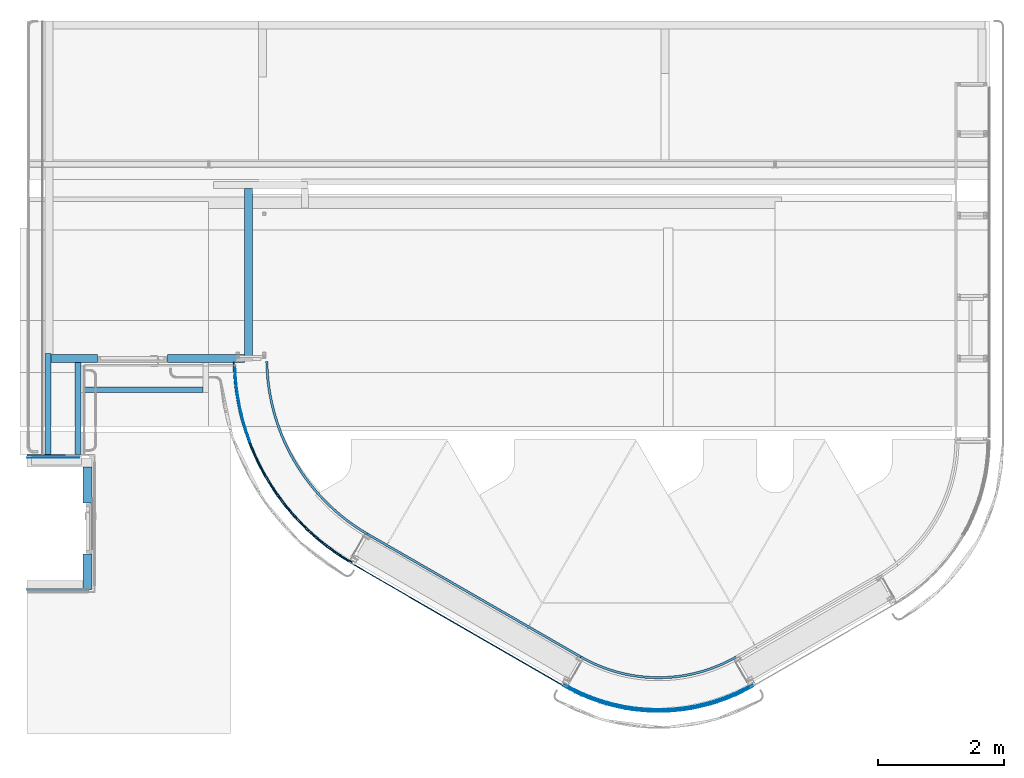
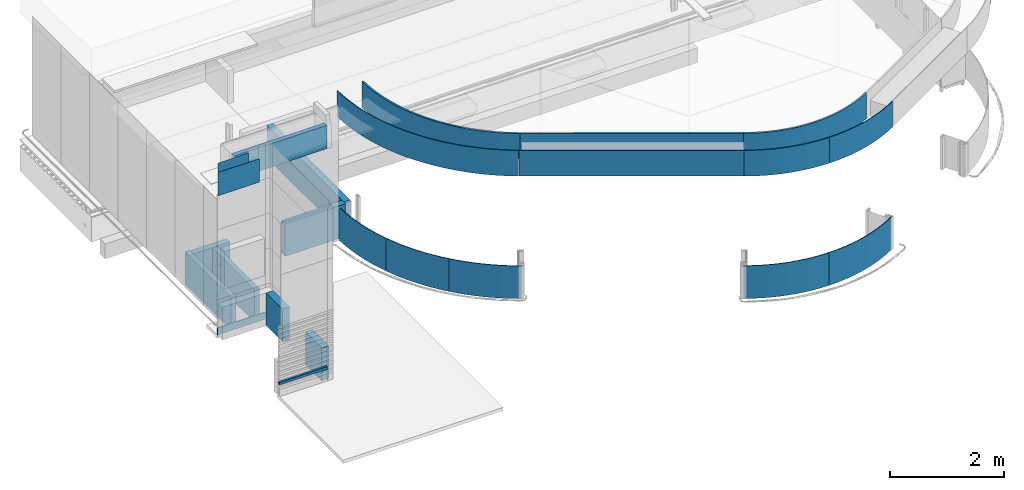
# One storey, part 10 of 18: 18 walls, 4 plates, 2 openings, 2 elements without a shape of their own.
"""IFC2X3 building model written with IfcOpenShell, lengths in millimetres."""

import ifcopenshell
import ifcopenshell.guid

model = None  # the IFC model being written
_history = None  # IfcOwnerHistory: only IFC2X3 demands one
_inside = {}  # id of a spatial element -> (the spatial element, [elements in it])
_under = {}  # id of a project, library or spatial element -> (it, [spatial elements below it])
_declared = {}  # id of a project -> (the project, [libraries it declares])
_typed = {}  # id of a type object -> (the type object, [elements of that type])
_made_of = {}  # id of a material, layer set ... -> (it, [elements and type objects made of it])


def new_model(schema):
    """Start an empty IFC model of exactly this schema.

    Asked for "IFC4X3", IfcOpenShell would pick the latest addendum, in which some entities
    have other attributes; the version numbers below select the first issue.
    IFC2X3 requires an IfcOwnerHistory on every rooted entity: one is made here for all.
    """
    global model, _history
    if schema == "IFC4X3":
        model = ifcopenshell.file(schema_version=(4, 3, 0, 0))
    else:
        model = ifcopenshell.file(schema=schema)
    _inside.clear()
    _under.clear()
    _declared.clear()
    _typed.clear()
    _made_of.clear()
    _history = None
    if model.schema == "IFC2X3":
        org = make("IfcOrganization", Name="unknown")
        user = make(
            "IfcPersonAndOrganization",
            ThePerson=make("IfcPerson", FamilyName="unknown"),
            TheOrganization=org,
        )
        app = make(
            "IfcApplication",
            ApplicationDeveloper=org,
            Version="unknown",
            ApplicationFullName="unknown",
            ApplicationIdentifier="unknown",
        )
        _history = make(
            "IfcOwnerHistory",
            OwningUser=user,
            OwningApplication=app,
            ChangeAction="ADDED",
            CreationDate=0,
        )
    return model


def make(cls, **values):
    """One entity of the class cls with the attributes given. An attribute that is None is left unset."""
    return model.create_entity(
        cls, **{name: value for name, value in values.items() if value is not None}
    )


def entity(cls, *values):
    """Any entity or typed value of the class cls, its attributes in the order of the schema. None: left unset."""
    e = model.create_entity(cls)
    for i, value in enumerate(values):
        if value is not None:
            e[i] = value
    return e


def rooted(cls, **values):
    """An entity with a GlobalId (a new one), such as an element, a storey or a relation."""
    return make(cls, GlobalId=ifcopenshell.guid.new(), OwnerHistory=_history, **values)


def si_unit(unit_type, name, prefix=None):
    """IfcSIUnit, for example si_unit("LENGTHUNIT", "METRE", prefix="MILLI")."""
    return make("IfcSIUnit", UnitType=unit_type, Prefix=prefix, Name=name)


def converted_unit(unit_type, name, factor, base, dimensions=None, offset=None):
    """IfcConversionBasedUnit, such as the inch: factor (a typed value) times the base unit."""
    return make(
        "IfcConversionBasedUnit"
        if offset is None
        else "IfcConversionBasedUnitWithOffset",
        ConversionOffset=offset,
        Dimensions=None
        if dimensions is None
        else entity("IfcDimensionalExponents", *dimensions),
        UnitType=unit_type,
        Name=name,
        ConversionFactor=make(
            "IfcMeasureWithUnit", ValueComponent=factor, UnitComponent=base
        ),
    )


def derived_unit(unit_type, elements):
    """IfcDerivedUnit: a product of units, each with its exponent."""
    return make(
        "IfcDerivedUnit",
        Elements=[
            make("IfcDerivedUnitElement", Unit=unit, Exponent=power)
            for unit, power in elements
        ],
        UnitType=unit_type,
    )


def assignment(units):
    """IfcUnitAssignment: the units of a project."""
    return None if units is None else make("IfcUnitAssignment", Units=units)


def point(xyz):
    """IfcCartesianPoint."""
    return None if xyz is None else make("IfcCartesianPoint", Coordinates=xyz)


def direction(xyz):
    """IfcDirection."""
    return None if xyz is None else make("IfcDirection", DirectionRatios=xyz)


def frame(location, z_axis=None, x_axis=None):
    """IfcAxis2Placement3D, a coordinate frame: its origin and axes. An axis left out is left unset."""
    return make(
        "IfcAxis2Placement3D",
        Location=point(location),
        Axis=direction(z_axis),
        RefDirection=direction(x_axis),
    )


def frame_2d(location, x_axis=None):
    """IfcAxis2Placement2D, a coordinate frame in the plane: its origin and x axis."""
    return make(
        "IfcAxis2Placement2D", Location=point(location), RefDirection=direction(x_axis)
    )


def origin():
    """The frame at (0, 0, 0) with its axes left unset."""
    return frame((0.0, 0.0, 0.0))


def origin_with_axes():
    """The frame at (0, 0, 0) with the z axis (0, 0, 1) and the x axis (1, 0, 0) written out."""
    return frame((0.0, 0.0, 0.0), z_axis=(0.0, 0.0, 1.0), x_axis=(1.0, 0.0, 0.0))


def place(relative_to, where):
    """IfcLocalPlacement: puts the frame where relative to a parent placement (None: the world)."""
    return make(
        "IfcLocalPlacement", PlacementRelTo=relative_to, RelativePlacement=where
    )


def context(
    kind, dimensions, precision=None, world=None, true_north=None, identifier=None
):
    """IfcGeometricRepresentationContext, for example the 3D "Model" context."""
    return make(
        "IfcGeometricRepresentationContext",
        ContextIdentifier=identifier,
        ContextType=kind,
        CoordinateSpaceDimension=dimensions,
        Precision=precision,
        WorldCoordinateSystem=world,
        TrueNorth=true_north,
    )


def subcontext(parent, identifier, kind, view, scale=None):
    """IfcGeometricRepresentationSubContext, for example "Body" below "Model"."""
    return make(
        "IfcGeometricRepresentationSubContext",
        ContextIdentifier=identifier,
        ContextType=kind,
        ParentContext=parent,
        TargetScale=scale,
        TargetView=view,
    )


def project(units=None, contexts=None):
    """IfcProject with its units and contexts."""
    return rooted(
        "IfcProject",
        Name="project",
        RepresentationContexts=contexts,
        UnitsInContext=assignment(units),
    )


def spatial(cls, under=None, at=None, **own):
    """A site, building, storey or space (cls), placed at a placement, below another one or the project."""
    s = rooted(cls, ObjectPlacement=at, **own)
    if under is not None:
        _under.setdefault(under.id(), (under, []))[1].append(s)
    return s


def polyline(points):
    """IfcPolyline through the points."""
    return make("IfcPolyline", Points=[point(p) for p in points])


def circle_curve(where, radius):
    """IfcCircle in the frame where."""
    return make("IfcCircle", Position=where, Radius=radius)


def parameter(value):
    """IfcParameterValue: where a trimmed curve begins or ends, as a parameter of its basis curve."""
    return model.create_entity("IfcParameterValue", value)


def trimmed(basis, trim1, trim2, sense, master):
    """IfcTrimmedCurve: the piece of a basis curve between two trims."""
    return make(
        "IfcTrimmedCurve",
        BasisCurve=basis,
        Trim1=trim1,
        Trim2=trim2,
        SenseAgreement=sense,
        MasterRepresentation=master,
    )


def segment(curve, same_sense, transition):
    """IfcCompositeCurveSegment."""
    return make(
        "IfcCompositeCurveSegment",
        Transition=transition,
        SameSense=same_sense,
        ParentCurve=curve,
    )


def composite_curve(segments, self_intersect=None):
    """IfcCompositeCurve: segments joined end to end."""
    return make("IfcCompositeCurve", Segments=segments, SelfIntersect=self_intersect)


def profile(cls, at=None, kind="AREA", **sizes):
    """A parametric profile (cls). Its sizes go by their IFC names, for example OverallWidth=200.0."""
    return make(cls, ProfileType=kind, Position=at, **sizes)


def rectangle(**sizes):
    """IfcRectangleProfileDef."""
    return profile("IfcRectangleProfileDef", **sizes)


def outline(outer, holes=None, kind="AREA"):
    """IfcArbitraryClosedProfileDef: a profile drawn as a closed curve; with holes, ...WithVoids."""
    if holes is None:
        return make("IfcArbitraryClosedProfileDef", ProfileType=kind, OuterCurve=outer)
    return make(
        "IfcArbitraryProfileDefWithVoids",
        ProfileType=kind,
        OuterCurve=outer,
        InnerCurves=holes,
    )


def extrude(swept, where, along, depth):
    """IfcExtrudedAreaSolid: the profile swept, set in the frame where, extruded along a direction by depth."""
    return make(
        "IfcExtrudedAreaSolid",
        SweptArea=swept,
        Position=where,
        ExtrudedDirection=direction(along),
        Depth=depth,
    )


def clip(a, b, op="DIFFERENCE"):
    """IfcBooleanClippingResult: the solid a cut by the half space b."""
    return make(
        "IfcBooleanClippingResult", Operator=op, FirstOperand=a, SecondOperand=b
    )


def halfspace(plane, agree):
    """IfcHalfSpaceSolid: all space on one side of the plane z = 0 of the frame plane."""
    return make(
        "IfcHalfSpaceSolid",
        BaseSurface=make("IfcPlane", Position=plane),
        AgreementFlag=agree,
    )


def bounded_halfspace(plane, agree, where, boundary):
    """IfcPolygonalBoundedHalfSpace: a half space limited to a polygon's prism."""
    return make(
        "IfcPolygonalBoundedHalfSpace",
        BaseSurface=make("IfcPlane", Position=plane),
        AgreementFlag=agree,
        Position=where,
        PolygonalBoundary=boundary,
    )


def faces_of(points, faces, orient=None, outer=None):
    """IfcFace entities. A face is a list of loops; a loop is a list of indices into points, from 0.

    orient and outer hold one flag for each loop. By default every Orientation is true, the
    first loop of a face is its IfcFaceOuterBound and the others are IfcFaceBound.
    """
    made = []
    for i, loops in enumerate(faces):
        bounds = []
        for j, loop in enumerate(loops):
            is_outer = j == 0 if outer is None else outer[i][j]
            bounds.append(
                make(
                    "IfcFaceOuterBound" if is_outer else "IfcFaceBound",
                    Bound=make("IfcPolyLoop", Polygon=[points[k] for k in loop]),
                    Orientation=True if orient is None else orient[i][j],
                )
            )
        made.append(make("IfcFace", Bounds=bounds))
    return made


def faceted_brep(points, faces, orient=None, outer=None, voids=None):
    """IfcFacetedBrep: a solid bounded by flat faces; with voids (closed shells), ...WithVoids."""
    shared = [point(p) for p in points]
    hull = make("IfcClosedShell", CfsFaces=faces_of(shared, faces, orient, outer))
    if voids is None:
        return make("IfcFacetedBrep", Outer=hull)
    return make(
        "IfcFacetedBrepWithVoids",
        Outer=hull,
        Voids=[
            make(cls, CfsFaces=faces_of(shared, fs, o, b)) for cls, fs, o, b in voids
        ],
    )


def shape(context_of_items, identifier, shape_type, items):
    """IfcShapeRepresentation: the items that make up one representation, for example the "Body"."""
    return make(
        "IfcShapeRepresentation",
        ContextOfItems=context_of_items,
        RepresentationIdentifier=identifier,
        RepresentationType=shape_type,
        Items=items,
    )


def material(Name=None, Category=None):
    """IfcMaterial."""
    return make("IfcMaterial", Name=Name, Category=Category)


def layer(
    of_material, thickness, ventilated=None, Name=None, Category=None, Priority=None
):
    """IfcMaterialLayer: one layer of a wall or slab, of a material (None: an air gap)."""
    return make(
        "IfcMaterialLayer",
        Material=of_material,
        LayerThickness=thickness,
        IsVentilated=ventilated,
        Name=Name,
        Category=Category,
        Priority=Priority,
    )


def layer_set(layers, Name=None):
    """IfcMaterialLayerSet."""
    return make("IfcMaterialLayerSet", MaterialLayers=layers, LayerSetName=Name)


def layer_usage(for_layer_set, set_direction, sense, offset, extent=None):
    """IfcMaterialLayerSetUsage: how a layer set lies in its element."""
    return make(
        "IfcMaterialLayerSetUsage",
        ForLayerSet=for_layer_set,
        LayerSetDirection=set_direction,
        DirectionSense=sense,
        OffsetFromReferenceLine=offset,
        ReferenceExtent=extent,
    )


def made_of(thing, what):
    """Note that an element or type object is made of a material, layer set ...; save() writes the relation."""
    if what is not None:
        _made_of.setdefault(what.id(), (what, []))[1].append(thing)
    return thing


def type_object(cls, material=None, **own):
    """A type object (cls), such as IfcWallType, which elements share."""
    return made_of(rooted(cls, **own), material)


def element(
    cls,
    number,
    at=None,
    inside=None,
    cuts=None,
    type_object=None,
    material=None,
    context=None,
    identifier="Body",
    shape_type=None,
    held_by="IfcProductDefinitionShape",
    body=None,
    shapes=None,
    **own,
):
    """One element of the class cls, such as IfcWall. Its Tag is "e" and its number.

    at: its placement. inside: the storey or other place that contains it. cuts: it is an
    opening in that element (IfcRelVoidsElement). A single representation is given by context,
    identifier, shape_type and body (its items); several are given by shapes. held_by: the class
    of the entity that holds the representations. save() writes the other relations.
    """
    e = rooted(cls, Tag="e%d" % number, ObjectPlacement=at, **own)
    if body is not None:
        shapes = [shape(context, identifier, shape_type, body)]
    if shapes is not None:
        e.Representation = make(held_by, Representations=shapes)
    if inside is not None:
        _inside.setdefault(inside.id(), (inside, []))[1].append(e)
    if cuts is not None:
        rooted(
            "IfcRelVoidsElement", RelatingBuildingElement=cuts, RelatedOpeningElement=e
        )
    if type_object is not None:
        _typed.setdefault(type_object.id(), (type_object, []))[1].append(e)
    return made_of(e, material)


def aggregate(whole, parts):
    """IfcRelAggregates: a whole, such as a stair, and the parts it consists of."""
    return rooted("IfcRelAggregates", RelatingObject=whole, RelatedObjects=parts)


def save(model, path):
    """Write the relations noted so far, then the file.

    IfcRelAggregates (storeys below a building ...), IfcRelContainedInSpatialStructure (elements
    in a storey), IfcRelDefinesByType, IfcRelAssociatesMaterial and IfcRelDeclares: one each for
    every whole, place, type object, material and project.
    """
    for whole, parts in _under.values():
        aggregate(whole, parts)
    for where, things in _inside.values():
        rooted(
            "IfcRelContainedInSpatialStructure",
            RelatedElements=things,
            RelatingStructure=where,
        )
    for kind, things in _typed.values():
        rooted("IfcRelDefinesByType", RelatedObjects=things, RelatingType=kind)
    for what, things in _made_of.values():
        rooted("IfcRelAssociatesMaterial", RelatedObjects=things, RelatingMaterial=what)
    for by, libraries in _declared.values():
        rooted("IfcRelDeclares", RelatingContext=by, RelatedDefinitions=libraries)
    model.write(path)


model = new_model("IFC2X3")

# Units and contexts
model_context = context("Model", 3, precision=0.01, world=frame((0.0, 4.29681676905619e-09, 0.0)), true_north=direction((4.01073788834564e-13, 1.0)))
plan_context = context("Plan", 3, precision=0.01, world=frame((0.0, 4.29681676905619e-09, 0.0)), true_north=direction((4.01073788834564e-13, 1.0)))
body_context = subcontext(model_context, "Body", "Model", "MODEL_VIEW")
ifc_project = project(units=[converted_unit("PLANEANGLEUNIT", "DEGREE", entity("IfcPositiveLengthMeasure", 0.0174532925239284), si_unit("PLANEANGLEUNIT", "RADIAN"), dimensions=[0, 0, 0, 0, 0, 0, 0]), si_unit("AREAUNIT", "SQUARE_METRE"), si_unit("LENGTHUNIT", "METRE", prefix="MILLI"), si_unit("MASSUNIT", "GRAM", prefix="KILO"), si_unit("POWERUNIT", "WATT"), si_unit("PRESSUREUNIT", "PASCAL"), si_unit("FORCEUNIT", "NEWTON", prefix="KILO"), si_unit("ELECTRICVOLTAGEUNIT", "VOLT"), si_unit("ELECTRICCURRENTUNIT", "AMPERE"), si_unit("THERMODYNAMICTEMPERATUREUNIT", "DEGREE_CELSIUS"), si_unit("TIMEUNIT", "SECOND"), si_unit("VOLUMEUNIT", "CUBIC_METRE"), derived_unit("LINEARVELOCITYUNIT", [(si_unit("LENGTHUNIT", "METRE"), 1), (si_unit("TIMEUNIT", "SECOND"), -1)]), derived_unit("VOLUMETRICFLOWRATEUNIT", [(si_unit("VOLUMEUNIT", "CUBIC_METRE"), 1), (si_unit("TIMEUNIT", "SECOND"), -1)]), derived_unit("THERMALTRANSMITTANCEUNIT", [(si_unit("POWERUNIT", "WATT"), 1), (si_unit("THERMODYNAMICTEMPERATUREUNIT", "KELVIN"), -1), (si_unit("AREAUNIT", "SQUARE_METRE"), -1)]), derived_unit("SOUNDPRESSUREUNIT", [(si_unit("PRESSUREUNIT", "PASCAL"), 1)])], contexts=[model_context, plan_context])

# Site, building, storey
site_placement = place(None, origin_with_axes())
site = spatial("IfcSite", under=ifc_project, at=site_placement, Name="ENGM", CompositionType="ELEMENT")
building_placement = place(site_placement, origin_with_axes())
building = spatial("IfcBuilding", under=site, at=building_placement, Name="TH", CompositionType="ELEMENT")
storey_placement = place(building_placement, frame((0.0, 0.0, 210200.0), z_axis=(0.0, 0.0, 1.0), x_axis=(1.0, 0.0, 0.0)))
storey = spatial("IfcBuildingStorey", under=building, at=storey_placement, Name="Nivå F - 0,7 m", CompositionType="ELEMENT", Elevation=210200.0)

# Curtain wall, plates
curtain_wall_type = type_object("IfcCurtainWallType", PredefinedType="NOTDEFINED")
curtain_wall_1_placement = place(storey_placement, frame((0.0, 0.0, -210200.0), z_axis=(0.0, 0.0, 1.0), x_axis=(1.0, 0.0, 0.0)))
curtain_wall_1 = element("IfcCurtainWall", 1, at=curtain_wall_1_placement, inside=storey, type_object=curtain_wall_type)
ifc_material_1 = material(Name="Metal - Steel")
plate_type_1 = type_object("IfcPlateType", Name="System Panel:A245 - Metallkasett Inv.20mm - Offset 30mm", PredefinedType="CURTAIN_PANEL", material=ifc_material_1)
plate_1_placement = place(curtain_wall_1_placement, frame((893499.999999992, 480415.000000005, 210200.0), z_axis=(0.0, 0.0, 1.0), x_axis=(1.0, 0.0, 0.0)))
plate_1 = element("IfcPlate", 2, at=plate_1_placement, type_object=plate_type_1, Name="System Panel:A245 - Metallkasett Inv.20mm - Offset 30mm", ObjectType="System Panel:A245 - Metallkasett Inv.20mm - Offset 30mm", context=body_context, shape_type="Brep", body=[
    faceted_brep([(1611.90616857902, 50.0, -2.70006239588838e-13), (1611.90616857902, 30.0, -2.70006239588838e-13), (2585.00000001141, 30.0, -2.70006239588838e-13), (2585.00000001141, 50.0, -2.70006239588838e-13), (1611.90616857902, 30.0, 150.0), (1611.90616857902, 50.0, 150.0), (2585.00000001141, 50.0, 150.0), (2585.00000001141, 30.0, 150.0)], [[[0, 1, 2, 3]], [[4, 5, 6, 7]], [[7, 6, 3, 2]], [[1, 4, 7, 2]], [[5, 0, 3, 6]], [[5, 4, 1, 0]]], orient=[[False], [False], [False], [False], [False], [False]]),
])
ifc_material_2 = material(Name="_NSW Luftspalte")
plate_type_2 = type_object("IfcPlateType", Name="Empty System Panel:A234 - Empty System Panel", PredefinedType="CURTAIN_PANEL", material=ifc_material_2)
plate_2_placement = place(curtain_wall_1_placement, frame((893499.99999998, 480415.000000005, 213200.0), z_axis=(0.0, 0.0, 1.0), x_axis=(1.0, 0.0, 0.0)))
plate_2 = element("IfcPlate", 3, at=plate_2_placement, type_object=plate_type_2, Name="Empty System Panel:A234 - Empty System Panel", ObjectType="Empty System Panel:A234 - Empty System Panel", context=body_context, shape_type="Brep", body=[
    faceted_brep([(1611.9061685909, 0.5, 0.0), (1611.9061685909, -0.5, 0.0), (2445.00000000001, -0.5, 0.0), (2445.00000000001, 0.5, 0.0), (1611.9061685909, -0.5, 500.000000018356), (1611.9061685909, 0.5, 500.000000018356), (2445.00000000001, 0.5, 500.000000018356), (2445.00000000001, -0.5, 500.000000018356)], [[[0, 1, 2, 3]], [[4, 5, 6, 7]], [[7, 6, 3, 2]], [[1, 4, 7, 2]], [[5, 0, 3, 6]], [[5, 4, 1, 0]]], orient=[[False], [False], [False], [False], [False], [False]]),
])
plate_type_3 = type_object("IfcPlateType", Name="Empty System Panel:A234 - Empty System Panel", PredefinedType="CURTAIN_PANEL", material=ifc_material_2)
plate_3_placement = place(curtain_wall_1_placement, frame((895321.999999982, 480415.000000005, 213700.000000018), z_axis=(0.0, 0.0, 1.0), x_axis=(1.0, 0.0, 0.0)))
plate_3 = element("IfcPlate", 4, at=plate_3_placement, type_object=plate_type_3, Name="Empty System Panel:A234 - Empty System Panel", ObjectType="Empty System Panel:A234 - Empty System Panel", context=body_context, shape_type="Brep", body=[
    faceted_brep([(-210.093831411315, -0.5, 0.0), (-210.093831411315, -0.499999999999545, 199.999999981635), (404.999999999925, -0.5, 199.999999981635), (404.999999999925, -0.5, 0.0), (404.999999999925, 0.5, 199.999999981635), (404.999999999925, 0.5, 0.0), (-210.093831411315, 0.5, 0.0)], [[[0, 1, 2, 3]], [[2, 4, 5, 3]], [[4, 1, 6, 5]], [[6, 0, 3, 5]], [[1, 0, 6]], [[1, 4, 2]]], orient=[[False], [False], [False], [False], [False], [False]]),
])
aggregate(curtain_wall_1, [plate_2, plate_3, plate_1])

# Curtain wall, plate
curtain_wall_2_placement = place(storey_placement, frame((0.0, 0.0, -210200.0), z_axis=(0.0, 0.0, 1.0), x_axis=(1.0, 0.0, 0.0)))
curtain_wall_2 = element("IfcCurtainWall", 5, at=curtain_wall_2_placement, inside=storey, type_object=curtain_wall_type)
ifc_material_3 = material(Name="T2_Tre Finerplate")
plate_type_4 = type_object("IfcPlateType", Name="System Panel:A245 - Trepanel eksisterende 2", PredefinedType="CURTAIN_PANEL", material=ifc_material_3)
plate_4_placement = place(curtain_wall_2_placement, frame((893499.999999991, 478322.727283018, 210450.0), z_axis=(0.0, 0.0, 1.0), x_axis=(-1.0, 0.0, 0.0)))
plate_4 = element("IfcPlate", 6, at=plate_4_placement, type_object=plate_type_4, Name="System Panel:A245 - Trepanel eksisterende 2", ObjectType="System Panel:A245 - Trepanel eksisterende 2", context=body_context, shape_type="Brep", body=[
    faceted_brep([(-1611.90616857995, 10.0, 0.0), (-1611.90616857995, 50.0, 0.0), (-2585.00000001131, 50.0, 0.0), (-2585.00000001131, 10.0, 0.0), (-2585.00000001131, 50.0, 55.0000000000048), (-2585.00000001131, 10.0, 55.0000000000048), (-1611.90616857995, 50.0, 55.0000000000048), (-1611.90616857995, 10.0, 55.0000000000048)], [[[0, 1, 2, 3]], [[3, 2, 4, 5]], [[6, 7, 5, 4]], [[7, 0, 3, 5]], [[1, 6, 4, 2]], [[7, 6, 1, 0]]], orient=[[False], [False], [False], [False], [False], [False]]),
])
aggregate(curtain_wall_2, [plate_4])

# Wall, opening
ifc_material_4 = material(Name="T2_Gips Protect F")
ifc_layer_1 = layer(ifc_material_4, 15.0)
ifc_material_5 = material(Name="T2_Gips Standard")
ifc_layer_2 = layer(ifc_material_5, 12.5)
ifc_material_6 = material(Name="_NSW Stålstender, uisolert")
ifc_layer_3 = layer(ifc_material_6, 100.0)
ifc_layer_4 = layer(ifc_material_4, 15.0)
ifc_layer_set_1 = layer_set([ifc_layer_1, ifc_layer_2, ifc_layer_3, ifc_layer_4], Name="Basic Wall:A241 - FSVF-100 (100/100 ps-p)")
ifc_layer_usage_1 = layer_usage(ifc_layer_set_1, "AXIS2", "NEGATIVE", 71.25)
wall_type_1 = type_object("IfcWallType", Name="Basic Wall:A241 - FSVF-100 (100/100 ps-p)", PredefinedType="STANDARD", material=ifc_layer_set_1)
wall_1_placement = place(storey_placement, frame((896071.249999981, 480271.249999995, 0.0), z_axis=(0.0, 0.0, 1.0), x_axis=(0.0, -1.0, 0.0)))
wall_1 = element("IfcWallStandardCase", 7, at=wall_1_placement, inside=storey, type_object=wall_type_1, material=ifc_layer_usage_1, Name="Basic Wall:A241 - FSVF-100 (100/100 ps-p)", ObjectType="Basic Wall:A241 - FSVF-100 (100/100 ps-p)", context=body_context, shape_type="Clipping", body=[
    clip(extrude(rectangle(XDim=1944.99999999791, YDim=142.500000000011, at=frame_2d((972.499999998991, -2.03712602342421e-11), x_axis=(1.0, 0.0))), origin(), (0.0, 0.0, 1.0), 700.000000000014), halfspace(origin(), True)),
])
opening_1_placement = place(wall_1_placement, frame((573.737499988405, -71.2500000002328, 0.0), z_axis=(0.0, 0.0, 1.0), x_axis=(1.0, 0.0, 0.0)))
element("IfcOpeningElement", 8, at=opening_1_placement, cuts=wall_1, Name="A20 - Slagdør - Enkel:A243 - DI_LTO - 0790 x 2240 mm:1", ObjectType="Opening", context=body_context, shape_type="SweptSolid", body=[
    extrude(rectangle(XDim=2259.99999999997, YDim=810.0, at=frame_2d((1129.99999999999, 405.0), x_axis=(1.0, 0.0))), frame((0.0, 0.0, 0.0), z_axis=(0.0, 1.0, 0.0), x_axis=(0.0, 0.0, 1.0)), (0.0, 0.0, 1.0), 142.5),
])

# Walls
ifc_material_7 = material(Name="Glass(Avinor)")
ifc_layer_5 = layer(ifc_material_7, 14.0)
ifc_layer_set_2 = layer_set([ifc_layer_5], Name="Basic Wall:A242 - IGV Glass 14mm")
ifc_layer_usage_2 = layer_usage(ifc_layer_set_2, "AXIS2", "POSITIVE", -7.0)
wall_type_2 = type_object("IfcWallType", Name="Basic Wall:A242 - IGV Glass 14mm", PredefinedType="STANDARD", material=ifc_layer_set_2)
wall_2_placement = place(storey_placement, frame((898656.201468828, 480668.98362984, 0.0), z_axis=(0.0, 0.0, 1.0), x_axis=(0.999801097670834, 0.0199440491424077, 0.0)))
element("IfcWallStandardCase", 9, at=wall_2_placement, inside=storey, type_object=wall_type_2, material=ifc_layer_usage_2, Name="Basic Wall:A242 - IGV Glass 14mm", ObjectType="Basic Wall:A242 - IGV Glass 14mm", context=body_context, shape_type="Clipping", body=[
    clip(clip(extrude(outline(composite_curve([segment(trimmed(circle_curve(frame_2d((3519.43879128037, 1250.51013366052), x_axis=(1.0, 0.0)), 3741.99999999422), [parameter(180.584579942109)], [parameter(199.560899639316)], True, "PARAMETER"), True, "CONTINUOUS"), segment(polyline([(-6.59600308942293, -2.34366022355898), (6.59600308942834, 2.3436602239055)]), True, "CONTINUOUS"), segment(trimmed(circle_curve(frame_2d((3519.43879128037, 1250.51013366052), x_axis=(1.0, 0.0)), 3727.99999999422), [parameter(180.584579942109)], [parameter(199.560899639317)], True, "PARAMETER"), False, "CONTINUOUS"), segment(polyline([(-208.367171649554, 1212.47458841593), (-222.366442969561, 1212.33175106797)]), True, "CONTINUOUS")], self_intersect=False)), origin(), (0.0, 0.0, 1.0), 700.000000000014), bounded_halfspace(frame((6.59600308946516, 2.3436602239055, 2630.0), z_axis=(-0.334808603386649, 0.942286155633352, 0.0), x_axis=(0.0, 0.0, -1.0)), True, frame((6.59600308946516, 2.3436602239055, 2630.0), z_axis=(-0.334808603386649, 0.942286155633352, 0.0), x_axis=(0.0, 0.0, -1.0)), polyline([(0.0, 0.0), (2630.0, 0.0), (2630.0, 14.0), (0.0, 14.0), (0.0, 0.0)]))), halfspace(origin(), True)),
])
ifc_layer_usage_3 = layer_usage(ifc_layer_set_2, "AXIS2", "POSITIVE", -7.0)
wall_3_placement = place(storey_placement, frame((899298.353254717, 479577.31421084, 0.0), z_axis=(0.0, 0.0, 1.0), x_axis=(0.999922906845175, 0.0124169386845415, 0.0)))
element("IfcWallStandardCase", 10, at=wall_3_placement, inside=storey, type_object=wall_type_2, material=ifc_layer_usage_3, Name="Basic Wall:A242 - IGV Glass 14mm", ObjectType="Basic Wall:A242 - IGV Glass 14mm", context=body_context, shape_type="Clipping", body=[
    clip(extrude(outline(composite_curve([segment(trimmed(circle_curve(frame_2d((2881.37808227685, 2376.52800255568), x_axis=(1.0, 0.0)), 3741.99999999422), [parameter(199.992228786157)], [parameter(219.515425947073)], True, "PARAMETER"), True, "CONTINUOUS"), segment(polyline([(-5.40017311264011, -4.4540016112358), (5.40017311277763, 4.4540016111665)]), True, "CONTINUOUS"), segment(trimmed(circle_curve(frame_2d((2881.37808227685, 2376.52800255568), x_axis=(1.0, 0.0)), 3727.99999999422), [parameter(199.992228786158)], [parameter(219.515425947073)], True, "PARAMETER"), False, "CONTINUOUS"), segment(polyline([(-621.968915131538, 1101.95206691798), (-635.125261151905, 1097.16556930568)]), True, "CONTINUOUS")], self_intersect=False)), origin(), (0.0, 0.0, 1.0), 700.000000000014), halfspace(origin(), True)),
])
ifc_layer_usage_4 = layer_usage(ifc_layer_set_2, "AXIS2", "POSITIVE", -7.0)
wall_4_placement = place(storey_placement, frame((900282.500000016, 478754.832011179, 0.0), z_axis=(0.0, 0.0, 1.0), x_axis=(0.999992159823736, 0.00395983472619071, 0.0)))
element("IfcWallStandardCase", 11, at=wall_4_placement, inside=storey, type_object=wall_type_2, material=ifc_layer_usage_4, Name="Basic Wall:A242 - IGV Glass 14mm", ObjectType="Basic Wall:A242 - IGV Glass 14mm", context=body_context, shape_type="Clipping", body=[
    clip(extrude(outline(composite_curve([segment(trimmed(circle_curve(frame_2d((1880.29385917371, 3227.18453192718), x_axis=(1.0, 0.0)), 3741.99999999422), [parameter(220.000000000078)], [parameter(239.773117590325)], True, "PARAMETER"), True, "CONTINUOUS"), segment(polyline([(-3.52397778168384, -6.0482708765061), (3.52397778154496, 6.0482708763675)]), True, "CONTINUOUS"), segment(trimmed(circle_curve(frame_2d((1880.29385917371, 3227.18453192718), x_axis=(1.0, 0.0)), 3727.99999999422), [parameter(220.000000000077)], [parameter(239.773117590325)], True, "PARAMETER"), False, "CONTINUOUS"), segment(polyline([(-975.519824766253, 830.872323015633), (-986.244446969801, 821.873296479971)]), True, "CONTINUOUS")], self_intersect=False)), origin(), (0.0, 0.0, 1.0), 699.999999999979), halfspace(origin(), True)),
])
ifc_layer_usage_5 = layer_usage(ifc_layer_set_2, "AXIS2", "NEGATIVE", 7.0)
wall_5_placement = place(storey_placement, frame((903655.028382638, 476813.265972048, 0.0), z_axis=(0.0, 0.0, 1.0), x_axis=(1.0, 0.0, 0.0)))
element("IfcWallStandardCase", 12, at=wall_5_placement, inside=storey, type_object=wall_type_2, material=ifc_layer_usage_5, Name="Basic Wall:A242 - IGV Glass 14mm", ObjectType="Basic Wall:A242 - IGV Glass 14mm", context=body_context, shape_type="Clipping", body=[
    clip(extrude(outline(composite_curve([segment(trimmed(circle_curve(frame_2d((1493.59777639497, 2584.02466175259), x_axis=(1.0, 0.0)), 2977.63025686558), [parameter(239.971563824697)], [parameter(270.007668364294)], True, "PARAMETER"), False, "CONTINUOUS"), segment(polyline([(3.50300825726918, 6.06044001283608), (-3.50300825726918, -6.06044001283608)]), True, "CONTINUOUS"), segment(trimmed(circle_curve(frame_2d((1493.59777639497, 2584.02466175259), x_axis=(1.0, 0.0)), 2991.63025686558), [parameter(239.971563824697)], [parameter(270.007668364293)], True, "PARAMETER"), True, "CONTINUOUS"), segment(polyline([(1493.99817081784, -407.605568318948), (1493.99629708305, -393.605568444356)]), True, "CONTINUOUS")], self_intersect=False)), origin(), (0.0, 0.0, 1.0), 700.000000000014), halfspace(origin(), True)),
])
ifc_layer_usage_6 = layer_usage(ifc_layer_set_2, "AXIS2", "NEGATIVE", 7.0)
wall_6_placement = place(storey_placement, frame((905149.025616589, 476412.660403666, 0.0), z_axis=(0.0, 0.0, 1.0), x_axis=(1.0, 0.0, 0.0)))
element("IfcWallStandardCase", 13, at=wall_6_placement, inside=storey, type_object=wall_type_2, material=ifc_layer_usage_6, Name="Basic Wall:A242 - IGV Glass 14mm", ObjectType="Basic Wall:A242 - IGV Glass 14mm", context=body_context, shape_type="Clipping", body=[
    clip(extrude(outline(composite_curve([segment(trimmed(circle_curve(frame_2d((-0.399457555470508, 2984.63023013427), x_axis=(1.0, 0.0)), 2977.63025686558), [parameter(270.007668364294)], [parameter(300.028436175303)], True, "PARAMETER"), False, "CONTINUOUS"), segment(polyline([(-0.000936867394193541, 6.99999993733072), (0.000936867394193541, -6.99999993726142)]), True, "CONTINUOUS"), segment(trimmed(circle_curve(frame_2d((-0.399457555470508, 2984.63023013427), x_axis=(1.0, 0.0)), 2991.63025686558), [parameter(270.007668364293)], [parameter(300.028436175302)], True, "PARAMETER"), True, "CONTINUOUS"), segment(polyline([(1496.70132709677, 394.54512836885), (1489.69531058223, 406.666008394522)]), True, "CONTINUOUS")], self_intersect=False)), origin(), (0.0, 0.0, 1.0), 700.000000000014), halfspace(origin(), True)),
])
ifc_material_8 = material(Name="Kledning")
ifc_layer_6 = layer(ifc_material_8, 14.0)
ifc_layer_set_3 = layer_set([ifc_layer_6], Name="Basic Wall:A242 - IGV Glass Opal 14mm")
ifc_layer_usage_7 = layer_usage(ifc_layer_set_3, "AXIS2", "NEGATIVE", 7.0)
wall_type_3 = type_object("IfcWallType", Name="Basic Wall:A242 - IGV Glass Opal 14mm", PredefinedType="STANDARD", material=ifc_layer_set_3)
wall_7_placement = place(storey_placement, frame((903646.489256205, 476787.228500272, 2635.0), z_axis=(0.0, 0.0, 1.0), x_axis=(1.0, 0.0, 0.0)))
element("IfcWallStandardCase", 14, at=wall_7_placement, inside=storey, type_object=wall_type_3, material=ifc_layer_usage_7, Name="Basic Wall:A242 - IGV Glass Opal 14mm", ObjectType="Basic Wall:A242 - IGV Glass Opal 14mm", context=body_context, shape_type="SweptSolid", body=[
    extrude(outline(composite_curve([segment(trimmed(circle_curve(frame_2d((1502.03076267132, 2598.61429549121), x_axis=(1.0, 0.0)), 2994.48174552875), [parameter(239.971563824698)], [parameter(270.000000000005)], True, "PARAMETER"), False, "CONTINUOUS"), segment(polyline([(3.50300825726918, 6.06044001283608), (-3.50300825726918, -6.06044001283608)]), True, "CONTINUOUS"), segment(trimmed(circle_curve(frame_2d((1502.03076267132, 2598.61429549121), x_axis=(1.0, 0.0)), 3008.48174552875), [parameter(239.971563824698)], [parameter(270.000000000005)], True, "PARAMETER"), True, "CONTINUOUS"), segment(polyline([(1502.0307626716, -409.867450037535), (1502.0307626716, -395.867450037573)]), True, "CONTINUOUS")], self_intersect=False)), origin(), (0.0, 0.0, 1.0), 549.999999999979),
])
ifc_layer_usage_8 = layer_usage(ifc_layer_set_3, "AXIS2", "NEGATIVE", 7.0)
wall_8_placement = place(storey_placement, frame((905148.520018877, 476384.361050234, 2635.0), z_axis=(0.0, 0.0, 1.0), x_axis=(1.0, 0.0, 0.0)))
element("IfcWallStandardCase", 15, at=wall_8_placement, inside=storey, type_object=wall_type_3, material=ifc_layer_usage_8, Name="Basic Wall:A242 - IGV Glass Opal 14mm", ObjectType="Basic Wall:A242 - IGV Glass Opal 14mm", context=body_context, shape_type="SweptSolid", body=[
    extrude(outline(composite_curve([segment(trimmed(circle_curve(frame_2d((0.0, 3001.48174552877), x_axis=(1.0, 0.0)), 2994.48174552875), [parameter(270.000000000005)], [parameter(300.028436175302)], True, "PARAMETER"), False, "CONTINUOUS"), segment(polyline([(0.0, 7.0), (0.0, -7.0)]), True, "CONTINUOUS"), segment(trimmed(circle_curve(frame_2d((0.0, 3001.48174552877), x_axis=(1.0, 0.0)), 3008.48174552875), [parameter(270.000000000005)], [parameter(300.028436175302)], True, "PARAMETER"), True, "CONTINUOUS"), segment(polyline([(1505.53377092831, 396.807010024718), (1498.52775441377, 408.92789005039)]), True, "CONTINUOUS")], self_intersect=False)), origin(), (0.0, 0.0, 1.0), 549.999999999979),
])
ifc_layer_usage_9 = layer_usage(ifc_layer_set_3, "AXIS2", "NEGATIVE", 7.0)
wall_9_placement = place(storey_placement, frame((903646.82743706, 476787.697296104, 2635.0), z_axis=(0.0, 0.0, 1.0), x_axis=(-0.865970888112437, 0.500094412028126, 0.0)))
element("IfcWallStandardCase", 16, at=wall_9_placement, inside=storey, type_object=wall_type_3, material=ifc_layer_usage_9, Name="Basic Wall:A242 - IGV Glass Opal 14mm", ObjectType="Basic Wall:A242 - IGV Glass Opal 14mm", context=body_context, shape_type="SweptSolid", body=[
    extrude(rectangle(XDim=3941.091575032, YDim=14.0000000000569, at=frame_2d((1970.54578751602, -2.79642975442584e-11), x_axis=(-1.0, 0.0))), origin(), (0.0, 0.0, 1.0), 549.999999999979),
])
ifc_layer_usage_10 = layer_usage(ifc_layer_set_3, "AXIS2", "NEGATIVE", 7.0)
wall_10_placement = place(storey_placement, frame((898394.412017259, 481933.805032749, 2635.0), z_axis=(0.0, 0.0, 1.0), x_axis=(0.939692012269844, 0.342021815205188, 0.0)))
element("IfcWallStandardCase", 17, at=wall_10_placement, inside=storey, type_object=wall_type_3, material=ifc_layer_usage_10, Name="Basic Wall:A242 - IGV Glass Opal 14mm", ObjectType="Basic Wall:A242 - IGV Glass Opal 14mm", context=body_context, shape_type="SweptSolid", body=[
    extrude(outline(composite_curve([segment(trimmed(circle_curve(frame_2d((3548.12333901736, -1232.21620305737), x_axis=(1.0, 0.0)), 3748.99999999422), [parameter(160.851732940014)], [parameter(219.32198266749)], True, "PARAMETER"), False, "CONTINUOUS"), segment(polyline([(6.54455341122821, -2.49237011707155), (-6.61258343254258, 2.29646257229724)]), True, "CONTINUOUS"), segment(trimmed(circle_curve(frame_2d((3548.12333901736, -1232.21620305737), x_axis=(1.0, 0.0)), 3762.99999999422), [parameter(160.848563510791)], [parameter(219.321982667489)], True, "PARAMETER"), True, "CONTINUOUS"), segment(polyline([(637.077287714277, -3616.74548305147), (647.90764772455, -3607.87399489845)]), True, "CONTINUOUS")], self_intersect=False)), origin(), (0.0, 0.0, 1.0), 549.999999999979),
])
ifc_layer_7 = layer(ifc_material_4, 12.5)
ifc_material_9 = material(Name="T2_X-finer")
ifc_layer_8 = layer(ifc_material_9, 12.0)
ifc_layer_9 = layer(ifc_material_9, 12.0)
ifc_layer_set_4 = layer_set([ifc_layer_7, ifc_layer_8, ifc_layer_9], Name="Basic Wall:A241 - FFS")
ifc_layer_usage_11 = layer_usage(ifc_layer_set_4, "AXIS2", "NEGATIVE", 18.25)
wall_type_4 = type_object("IfcWallType", Name="Basic Wall:A241 - FFS", PredefinedType="STANDARD", material=ifc_layer_set_4)
wall_11_placement = place(storey_placement, frame((903912.90890222, 477251.256608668, 2635.0), z_axis=(0.0, 0.0, 1.0), x_axis=(0.939692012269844, 0.342021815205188, 0.0)))
element("IfcWallStandardCase", 18, at=wall_11_placement, inside=storey, type_object=wall_type_4, material=ifc_layer_usage_11, Name="Basic Wall:A241 - FFS", ObjectType="Basic Wall:A241 - FFS", context=body_context, shape_type="SweptSolid", body=[
    extrude(outline(composite_curve([segment(trimmed(circle_curve(frame_2d((1895.33008597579, 1594.36960197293), x_axis=(1.0, 0.0)), 2458.5), [parameter(220.07086422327)], [parameter(279.8637116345)], True, "PARAMETER"), False, "CONTINUOUS"), segment(polyline([(13.9657914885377, 11.7481559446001), (-13.9657914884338, -11.7481559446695)]), True, "CONTINUOUS"), segment(trimmed(circle_curve(frame_2d((1895.33008597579, 1594.36960197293), x_axis=(1.0, 0.0)), 2495.0), [parameter(220.070864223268)], [parameter(279.863711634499)], True, "PARAMETER"), True, "CONTINUOUS"), segment(polyline([(2322.73642377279, -863.749358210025), (2316.48378596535, -827.788900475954)]), True, "CONTINUOUS")], self_intersect=False)), origin(), (0.0, 0.0, 1.0), 549.999999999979),
])
ifc_layer_usage_12 = layer_usage(ifc_layer_set_4, "AXIS2", "NEGATIVE", 18.25)
wall_12_placement = place(storey_placement, frame((900515.664281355, 479207.050305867, 2635.0), z_axis=(0.0, 0.0, 1.0), x_axis=(0.866644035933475, -0.498926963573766, 0.0)))
element("IfcWallStandardCase", 19, at=wall_12_placement, inside=storey, type_object=wall_type_4, material=ifc_layer_usage_12, Name="Basic Wall:A241 - FFS", ObjectType="Basic Wall:A241 - FFS", context=body_context, shape_type="SweptSolid", body=[
    extrude(rectangle(XDim=3920.00000000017, YDim=36.5000000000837, at=frame_2d((1960.00000000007, 7.19602155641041e-12), x_axis=(-1.0, 0.0))), origin(), (0.0, 0.0, 1.0), 549.999999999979),
])
ifc_layer_usage_13 = layer_usage(ifc_layer_set_4, "AXIS2", "NEGATIVE", 18.25)
wall_13_placement = place(storey_placement, frame((898923.490368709, 481950.052102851, 2635.0), z_axis=(0.0, 0.0, 1.0), x_axis=(0.939692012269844, 0.342021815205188, 0.0)))
element("IfcWallStandardCase", 20, at=wall_13_placement, inside=storey, type_object=wall_type_4, material=ifc_layer_usage_13, Name="Basic Wall:A241 - FFS", ObjectType="Basic Wall:A241 - FFS", context=body_context, shape_type="SweptSolid", body=[
    extrude(outline(composite_curve([segment(trimmed(circle_curve(frame_2d((3045.39578588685, -1066.52710690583), x_axis=(1.0, 0.0)), 3208.49999999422), [parameter(160.699251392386)], [parameter(219.539609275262)], True, "PARAMETER"), False, "CONTINUOUS"), segment(polyline([(17.2242885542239, -6.03211271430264), (-17.2242885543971, 6.03211271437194)]), True, "CONTINUOUS"), segment(trimmed(circle_curve(frame_2d((3045.39578588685, -1066.52710690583), x_axis=(1.0, 0.0)), 3244.99999999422), [parameter(160.699251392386)], [parameter(219.53960927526)], True, "PARAMETER"), True, "CONTINUOUS"), segment(polyline([(542.901530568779, -3132.33143018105), (571.049771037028, -3109.09511036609)]), True, "CONTINUOUS")], self_intersect=False)), origin(), (0.0, 0.0, 1.0), 549.999999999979),
])

# Wall, opening
ifc_material_10 = material(Name="Plate - Gips")
ifc_layer_10 = layer(ifc_material_10, 12.5)
ifc_material_11 = material(Name="_NSW X-finer")
ifc_layer_11 = layer(ifc_material_11, 12.5)
ifc_material_12 = material(Name="_NSW Isolasjon")
ifc_layer_12 = layer(ifc_material_12, 75.0)
ifc_layer_13 = layer(ifc_material_11, 12.5)
ifc_layer_14 = layer(ifc_material_10, 12.5)
ifc_layer_set_5 = layer_set([ifc_layer_10, ifc_layer_11, ifc_layer_12, ifc_layer_13, ifc_layer_14], Name="Basic Wall:A241 - SXVXS-75")
ifc_layer_usage_14 = layer_usage(ifc_layer_set_5, "AXIS2", "NEGATIVE", 62.5)
wall_type_5 = type_object("IfcWallType", Name="Basic Wall:A241 - SXVXS-75", PredefinedType="STANDARD", material=ifc_layer_set_5)
wall_14_placement = place(storey_placement, frame((898567.141535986, 481996.201352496, 0.0), z_axis=(0.0, 0.0, 1.0), x_axis=(-1.0, 0.0, 0.0)))
wall_14 = element("IfcWallStandardCase", 21, at=wall_14_placement, inside=storey, type_object=wall_type_5, material=ifc_layer_usage_14, Name="Basic Wall:A241 - SXVXS-75", ObjectType="Basic Wall:A241 - SXVXS-75", context=body_context, shape_type="Clipping", body=[
    clip(extrude(rectangle(XDim=3145.89153581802, YDim=124.999999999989, at=frame_2d((1572.94576790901, 3.46496165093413e-11), x_axis=(1.0, 0.0))), origin(), (0.0, 0.0, 1.0), 700.000000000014), halfspace(origin(), True)),
])
opening_2_placement = place(wall_14_placement, frame((1225.89153581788, -62.5000000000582, 0.0), z_axis=(0.0, 0.0, 1.0), x_axis=(1.0, 0.0, 0.0)))
element("IfcOpeningElement", 22, at=opening_2_placement, cuts=wall_14, Name="A20 - Slagdør - Enkel2:A243 - DI_LTO - 1090 x 2090 mm:1", ObjectType="Opening", context=body_context, shape_type="SweptSolid", body=[
    extrude(rectangle(XDim=2109.99999999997, YDim=1110.0, at=frame_2d((1054.99999999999, 555.0), x_axis=(1.0, 0.0))), frame((0.0, 0.0, 0.0), z_axis=(0.0, 1.0, 0.0), x_axis=(0.0, 0.0, 1.0)), (0.0, 0.0, 1.0), 125.0),
])

# Walls
ifc_layer_usage_15 = layer_usage(ifc_layer_set_5, "AXIS2", "POSITIVE", -62.5)
wall_15_placement = place(storey_placement, frame((898629.641535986, 484696.811718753, 0.0), z_axis=(0.0, 0.0, 1.0), x_axis=(0.0, -1.0, 0.0)))
element("IfcWallStandardCase", 23, at=wall_15_placement, inside=storey, type_object=wall_type_5, material=ifc_layer_usage_15, Name="Basic Wall:A241 - SXVXS-75", ObjectType="Basic Wall:A241 - SXVXS-75", context=body_context, shape_type="Clipping", body=[
    clip(extrude(rectangle(XDim=2707.37482442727, YDim=125.000000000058, at=frame_2d((1353.68741221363, 0.0), x_axis=(-1.0, 0.0))), origin(), (0.0, 0.0, 1.0), 700.000000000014), halfspace(origin(), True)),
])
ifc_layer_15 = layer(ifc_material_12, 75.0)
ifc_layer_16 = layer(ifc_material_11, 12.5)
ifc_layer_17 = layer(ifc_material_10, 12.5)
ifc_layer_set_6 = layer_set([ifc_layer_15, ifc_layer_16, ifc_layer_17], Name="Basic Wall:A241 - SXV-75")
ifc_layer_usage_16 = layer_usage(ifc_layer_set_6, "AXIS2", "POSITIVE", -50.0)
wall_type_6 = type_object("IfcWallType", Name="Basic Wall:A241 - SXV-75", PredefinedType="STANDARD", material=ifc_layer_set_6)
wall_16_placement = place(storey_placement, frame((895921.250000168, 481933.701352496, 0.0), z_axis=(0.0, 0.0, 1.0), x_axis=(0.0, -1.0, 0.0)))
element("IfcWallStandardCase", 24, at=wall_16_placement, inside=storey, type_object=wall_type_6, material=ifc_layer_usage_16, Name="Basic Wall:A241 - SXV-75", ObjectType="Basic Wall:A241 - SXV-75", context=body_context, shape_type="Clipping", body=[
    clip(extrude(rectangle(XDim=1480.00000000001, YDim=100.000000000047, at=frame_2d((740.000000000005, 0.0), x_axis=(-1.0, 0.0))), origin(), (0.0, 0.0, 1.0), 700.000000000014), halfspace(origin(), True)),
])
ifc_layer_usage_17 = layer_usage(ifc_layer_set_6, "AXIS2", "NEGATIVE", 50.0)
wall_17_placement = place(storey_placement, frame((895446.250000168, 482073.701352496, 0.0), z_axis=(0.0, 0.0, 1.0), x_axis=(0.0, -1.0, 0.0)))
element("IfcWallStandardCase", 25, at=wall_17_placement, inside=storey, type_object=wall_type_6, material=ifc_layer_usage_17, Name="Basic Wall:A241 - SXV-75", ObjectType="Basic Wall:A241 - SXV-75", context=body_context, shape_type="Clipping", body=[
    clip(extrude(rectangle(XDim=1619.99999999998, YDim=100.000000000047, at=frame_2d((809.999999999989, 0.0), x_axis=(-1.0, 0.0))), origin(), (0.0, 0.0, 1.0), 700.000000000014), halfspace(origin(), True)),
])
ifc_layer_18 = layer(ifc_material_10, 12.5)
ifc_layer_19 = layer(ifc_material_6, 75.0)
ifc_layer_set_7 = layer_set([ifc_layer_18, ifc_layer_19], Name="Basic Wall:A241 - Skjørt (SV-75 S) 3")
ifc_layer_usage_18 = layer_usage(ifc_layer_set_7, "AXIS2", "NEGATIVE", 43.75)
wall_type_7 = type_object("IfcWallType", Name="Basic Wall:A241 - Skjørt (SV-75 S) 3", PredefinedType="STANDARD", material=ifc_layer_set_7)
wall_18_placement = place(storey_placement, frame((897912.500000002, 481493.754374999, 2400.0), z_axis=(0.0, 0.0, 1.0), x_axis=(-1.0, 0.0, 0.0)))
element("IfcWallStandardCase", 26, at=wall_18_placement, inside=storey, type_object=wall_type_7, material=ifc_layer_usage_18, Name="Basic Wall:A241 - Skjørt (SV-75 S) 3", ObjectType="Basic Wall:A241 - Skjørt (SV-75 S) 3", context=body_context, shape_type="SweptSolid", body=[
    extrude(rectangle(XDim=1885.24999983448, YDim=87.4999999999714, at=frame_2d((942.624999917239, 3.46496165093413e-11), x_axis=(-1.0, 0.0))), origin(), (0.0, 0.0, 1.0), 499.999999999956),
])

save(model, "model.ifc")
